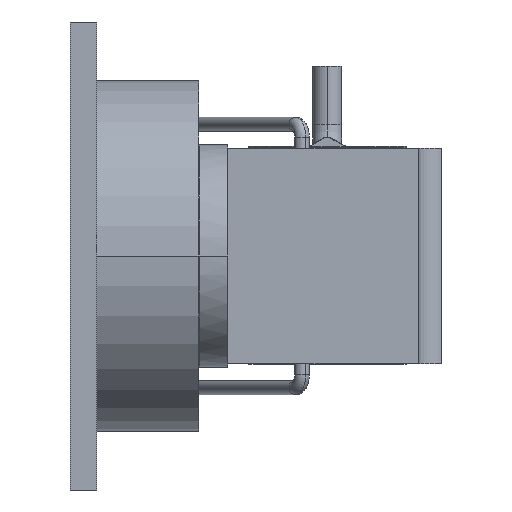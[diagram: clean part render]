
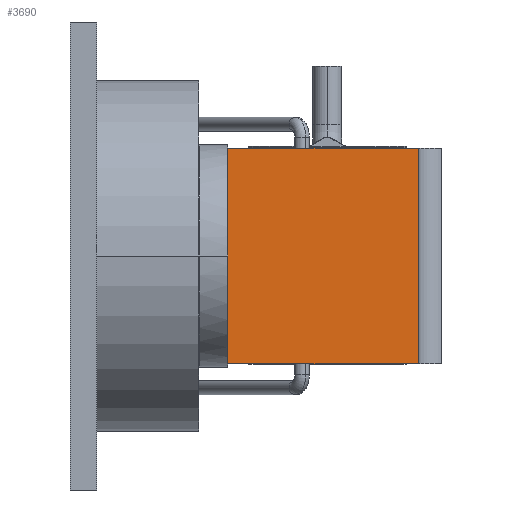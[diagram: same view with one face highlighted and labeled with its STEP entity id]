
A CAD part, left-side view. The second image highlights one B-rep face of the part: STEP entity #3690.
In plain terms, the highlighted planar face has unit normal (-1, 0, 0).
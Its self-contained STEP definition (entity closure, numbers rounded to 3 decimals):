
#537=DIRECTION('',(0.,0.,-1.));
#538=VECTOR('',#537,13.417);
#539=CARTESIAN_POINT('',(0.,36.576,-4.972));
#540=LINE('',#539,#538);
#545=DIRECTION('',(0.,0.,1.));
#546=VECTOR('',#545,9.945);
#547=CARTESIAN_POINT('',(0.,36.576,-4.972));
#548=LINE('',#547,#546);
#549=DIRECTION('',(0.,0.,1.));
#550=VECTOR('',#549,36.779);
#551=CARTESIAN_POINT('',(0.,4.,-18.39));
#552=LINE('',#551,#550);
#553=DIRECTION('',(0.,1.,0.));
#554=VECTOR('',#553,32.576);
#555=CARTESIAN_POINT('',(0.,4.,-18.39));
#556=LINE('',#555,#554);
#572=DIRECTION('',(0.,0.,-1.));
#573=VECTOR('',#572,13.417);
#574=CARTESIAN_POINT('',(0.,36.576,18.39));
#575=LINE('',#574,#573);
#600=DIRECTION('',(0.,1.,0.));
#601=VECTOR('',#600,32.576);
#602=CARTESIAN_POINT('',(0.,4.,18.39));
#603=LINE('',#602,#601);
#2521=CARTESIAN_POINT('',(0.,4.,-18.39));
#2522=CARTESIAN_POINT('',(0.,4.,18.39));
#2523=VERTEX_POINT('',#2521);
#2524=VERTEX_POINT('',#2522);
#2525=CARTESIAN_POINT('',(0.,36.576,-18.39));
#2526=VERTEX_POINT('',#2525);
#2527=CARTESIAN_POINT('',(0.,36.576,18.39));
#2528=VERTEX_POINT('',#2527);
#3021=CARTESIAN_POINT('',(0.,36.576,-4.972));
#3022=CARTESIAN_POINT('',(0.,36.576,4.972));
#3023=VERTEX_POINT('',#3021);
#3024=VERTEX_POINT('',#3022);
#3672=CARTESIAN_POINT('',(0.,36.576,-18.39));
#3673=DIRECTION('',(-1.,0.,0.));
#3674=DIRECTION('',(0.,-1.,0.));
#3675=AXIS2_PLACEMENT_3D('',#3672,#3673,#3674);
#3676=PLANE('',#3675);
#3678=ORIENTED_EDGE('',*,*,#3677,.T.);
#3680=ORIENTED_EDGE('',*,*,#3679,.F.);
#3682=ORIENTED_EDGE('',*,*,#3681,.F.);
#3684=ORIENTED_EDGE('',*,*,#3683,.F.);
#3686=ORIENTED_EDGE('',*,*,#3685,.T.);
#3687=ORIENTED_EDGE('',*,*,#3665,.F.);
#3688=EDGE_LOOP('',(#3678,#3680,#3682,#3684,#3686,#3687));
#3689=FACE_OUTER_BOUND('',#3688,.F.);
#3690=ADVANCED_FACE('',(#3689),#3676,.T.);
#3665=EDGE_CURVE('',#3023,#2526,#540,.T.);
#3677=EDGE_CURVE('',#3023,#3024,#548,.T.);
#3679=EDGE_CURVE('',#2528,#3024,#575,.T.);
#3681=EDGE_CURVE('',#2524,#2528,#603,.T.);
#3683=EDGE_CURVE('',#2523,#2524,#552,.T.);
#3685=EDGE_CURVE('',#2523,#2526,#556,.T.);
